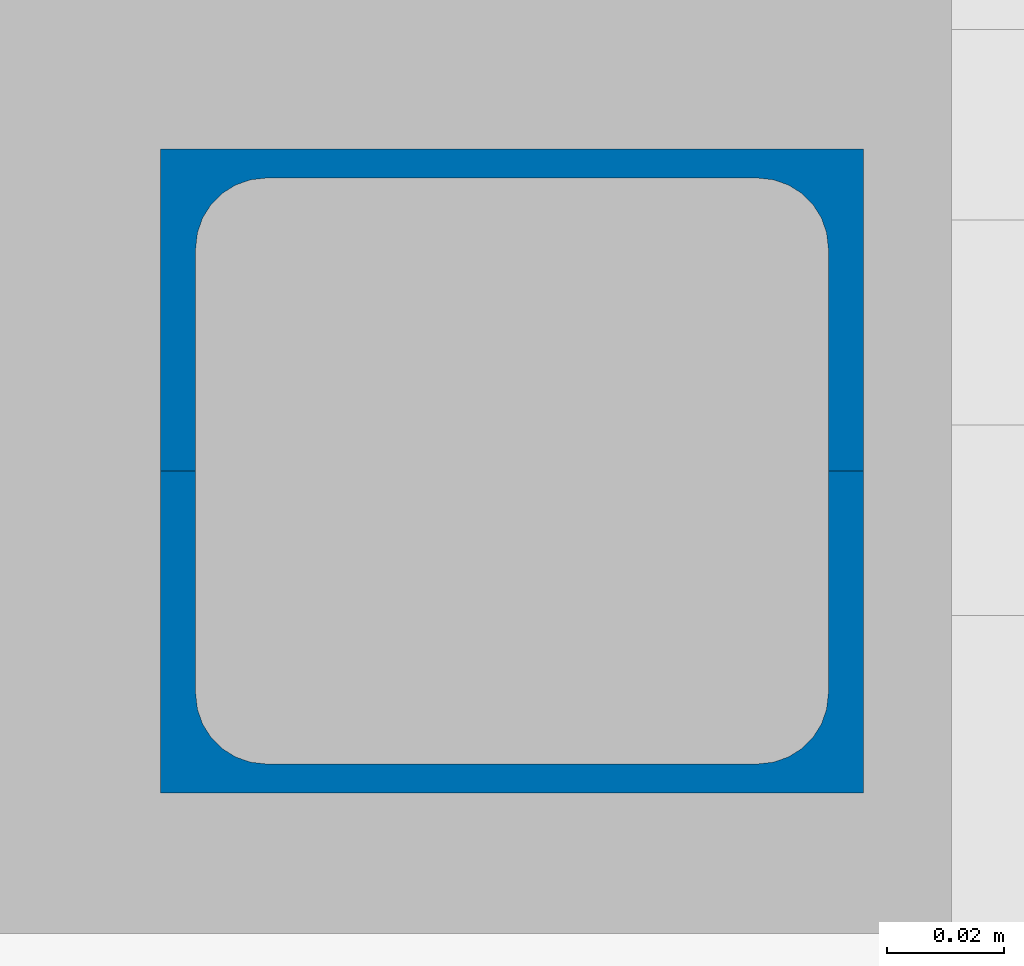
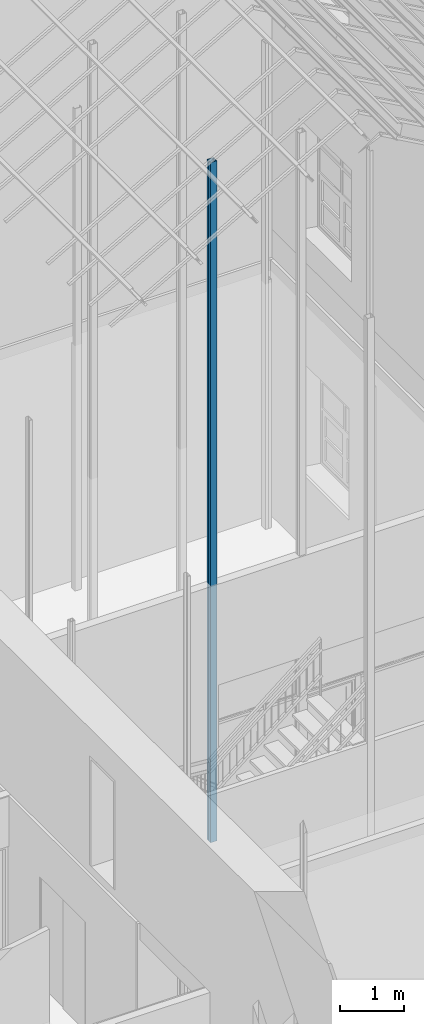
# One storey, part 4 of 75: 2 columns.
"""IFC2X3 building model written with IfcOpenShell, lengths in metres."""

from ifc_helpers import new_model, entity, si_unit, converted_unit, derived_unit, direction, frame, frame_2d, origin, place, context, subcontext, project, spatial, polyline, circle_curve, parameter, trimmed, segment, composite_curve, outline, extrude, source, transform, mapped, material, type_object, type_shapes, element, save


model = new_model("IFC2X3")

# Units and contexts
model_context = context("Model", 3, precision=1e-05, world=origin(), true_north=direction((6.12303176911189e-17, 1.0)))
body_context = subcontext(model_context, "Body", "Model", "MODEL_VIEW")
ifc_project = project(units=[si_unit("LENGTHUNIT", "METRE"), si_unit("AREAUNIT", "SQUARE_METRE"), si_unit("VOLUMEUNIT", "CUBIC_METRE"), converted_unit("PLANEANGLEUNIT", "DEGREE", entity("IfcRatioMeasure", 0.0174532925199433), si_unit("PLANEANGLEUNIT", "RADIAN"), dimensions=[0, 0, 0, 0, 0, 0, 0]), si_unit("MASSUNIT", "GRAM", prefix="KILO"), derived_unit("MASSDENSITYUNIT", [(si_unit("MASSUNIT", "GRAM", prefix="KILO"), 1), (si_unit("LENGTHUNIT", "METRE"), -3)]), derived_unit("MOMENTOFINERTIAUNIT", [(si_unit("LENGTHUNIT", "METRE"), 4)]), si_unit("TIMEUNIT", "SECOND"), si_unit("FREQUENCYUNIT", "HERTZ"), si_unit("THERMODYNAMICTEMPERATUREUNIT", "DEGREE_CELSIUS"), derived_unit("THERMALTRANSMITTANCEUNIT", [(si_unit("MASSUNIT", "GRAM", prefix="KILO"), 1), (si_unit("THERMODYNAMICTEMPERATUREUNIT", "KELVIN"), -1), (si_unit("TIMEUNIT", "SECOND"), -3)]), derived_unit("VOLUMETRICFLOWRATEUNIT", [(si_unit("LENGTHUNIT", "METRE"), 3), (si_unit("TIMEUNIT", "SECOND"), -1)]), si_unit("ELECTRICCURRENTUNIT", "AMPERE"), si_unit("ELECTRICVOLTAGEUNIT", "VOLT"), si_unit("POWERUNIT", "WATT"), si_unit("FORCEUNIT", "NEWTON", prefix="KILO"), si_unit("ILLUMINANCEUNIT", "LUX"), si_unit("LUMINOUSFLUXUNIT", "LUMEN"), si_unit("LUMINOUSINTENSITYUNIT", "CANDELA"), derived_unit("USERDEFINED", [(si_unit("MASSUNIT", "GRAM", prefix="KILO"), -1), (si_unit("LENGTHUNIT", "METRE"), -2), (si_unit("TIMEUNIT", "SECOND"), 3), (si_unit("LUMINOUSFLUXUNIT", "LUMEN"), 1)]), derived_unit("LINEARVELOCITYUNIT", [(si_unit("LENGTHUNIT", "METRE"), 1), (si_unit("TIMEUNIT", "SECOND"), -1)]), si_unit("PRESSUREUNIT", "PASCAL"), derived_unit("USERDEFINED", [(si_unit("LENGTHUNIT", "METRE"), -2), (si_unit("MASSUNIT", "GRAM", prefix="KILO"), 1), (si_unit("TIMEUNIT", "SECOND"), -2)]), derived_unit("LINEARFORCEUNIT", [(si_unit("MASSUNIT", "GRAM", prefix="KILO"), 1), (si_unit("LENGTHUNIT", "METRE"), 1), (si_unit("TIMEUNIT", "SECOND"), -2), (si_unit("LENGTHUNIT", "METRE"), -1)]), derived_unit("PLANARFORCEUNIT", [(si_unit("MASSUNIT", "GRAM", prefix="KILO"), 1), (si_unit("LENGTHUNIT", "METRE"), 1), (si_unit("TIMEUNIT", "SECOND"), -2), (si_unit("LENGTHUNIT", "METRE"), -2)])], contexts=[model_context])

# Site, building, storey
site_placement = place(None, origin())
site = spatial("IfcSite", under=ifc_project, at=site_placement, Name="Superficie", CompositionType="ELEMENT")
building_placement = place(site_placement, origin())
building = spatial("IfcBuilding", under=site, at=building_placement, Name="Telegestiones", CompositionType="ELEMENT")
storey_placement = place(building_placement, origin())
storey = spatial("IfcBuildingStorey", under=building, at=storey_placement, Name="Nivel 0_NPT", CompositionType="ELEMENT", Elevation=0.0)

# Columns
ifc_material = material(Name="Metal - Acero - 345 MPa")
column_type_1 = type_object("IfcColumnType", Name="UPE - Canales de ala paralela - Pilar:UPE 120", PredefinedType="COLUMN", material=ifc_material)
shared_shape_1 = source(origin(), body_context, "Body", "SweptSolid", [
    extrude(outline(composite_curve([segment(polyline([(-0.0599999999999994, -0.0264), (0.0600000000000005, -0.0264)]), True, "CONTINUOUS"), segment(polyline([(0.0600000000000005, -0.0264), (0.0600000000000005, 0.0286)]), True, "CONTINUOUS"), segment(polyline([(0.0600000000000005, 0.0286), (0.0539999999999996, 0.0286)]), True, "CONTINUOUS"), segment(polyline([(0.0539999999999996, 0.0286), (0.0539999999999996, -0.00939999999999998)]), True, "CONTINUOUS"), segment(trimmed(circle_curve(frame_2d((0.0419999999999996, -0.0094), x_axis=(1.0, 0.0)), 0.012), [parameter(270.0)], [parameter(0.0)], True, "PARAMETER"), False, "CONTINUOUS"), segment(polyline([(0.0419999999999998, -0.0214), (-0.0420000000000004, -0.0214)]), True, "CONTINUOUS"), segment(trimmed(circle_curve(frame_2d((-0.0420000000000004, -0.00940000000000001), x_axis=(0.0, -1.0)), 0.012), [parameter(270.0)], [parameter(0.0)], True, "PARAMETER"), False, "CONTINUOUS"), segment(polyline([(-0.0540000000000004, -0.0094), (-0.0540000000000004, 0.0286)]), True, "CONTINUOUS"), segment(polyline([(-0.0540000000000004, 0.0286), (-0.0599999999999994, 0.0286)]), True, "CONTINUOUS"), segment(polyline([(-0.0599999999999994, 0.0286), (-0.0599999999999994, -0.0264)]), True, "CONTINUOUS")], self_intersect=False)), frame((0.00660000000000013, 0.0, 0.0), z_axis=(0.0, 0.0, 1.0), x_axis=(0.0, -1.0, 0.0)), (0.0, 0.0, 1.0), 13.07),
])
type_shapes(column_type_1, [shared_shape_1])
column_1_placement = place(storey_placement, frame((9.65681262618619, 6.4698072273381, 0.0), z_axis=(0.0, 0.0, 1.0), x_axis=(0.0, -1.0, 0.0)))
element("IfcColumn", 1, at=column_1_placement, inside=storey, type_object=column_type_1, Name="UPE - Canales de ala paralela - Pilar:UPE 120", ObjectType="UPE - Canales de ala paralela - Pilar:UPE 120", context=body_context, shape_type="MappedRepresentation", body=[
    mapped(shared_shape_1, transform((0.0, 0.0, 0.0), scale=1.0)),
])
column_type_2 = type_object("IfcColumnType", Name="UPE - Canales de ala paralela - Pilar:UPE 120", PredefinedType="COLUMN", material=ifc_material)
shared_shape_2 = source(origin(), body_context, "Body", "SweptSolid", [
    extrude(outline(composite_curve([segment(polyline([(-0.0600000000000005, -0.0264), (0.0599999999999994, -0.0264)]), True, "CONTINUOUS"), segment(polyline([(0.0599999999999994, -0.0264), (0.0599999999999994, 0.0286)]), True, "CONTINUOUS"), segment(polyline([(0.0599999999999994, 0.0286), (0.0540000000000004, 0.0286)]), True, "CONTINUOUS"), segment(polyline([(0.0540000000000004, 0.0286), (0.0540000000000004, -0.00939999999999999)]), True, "CONTINUOUS"), segment(trimmed(circle_curve(frame_2d((0.0420000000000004, -0.00939999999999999), x_axis=(1.0, 0.0)), 0.012), [parameter(270.0)], [parameter(0.0)], True, "PARAMETER"), False, "CONTINUOUS"), segment(polyline([(0.0420000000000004, -0.0214), (-0.0419999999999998, -0.0214)]), True, "CONTINUOUS"), segment(trimmed(circle_curve(frame_2d((-0.0419999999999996, -0.00939999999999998), x_axis=(0.0, -1.0)), 0.012), [parameter(270.0)], [parameter(0.0)], True, "PARAMETER"), False, "CONTINUOUS"), segment(polyline([(-0.0539999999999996, -0.00939999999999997), (-0.0539999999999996, 0.0286)]), True, "CONTINUOUS"), segment(polyline([(-0.0539999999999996, 0.0286), (-0.0600000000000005, 0.0286)]), True, "CONTINUOUS"), segment(polyline([(-0.0600000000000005, 0.0286), (-0.0600000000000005, -0.0264)]), True, "CONTINUOUS")], self_intersect=False)), frame((0.00660000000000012, 0.0, 0.0), z_axis=(0.0, 0.0, 1.0), x_axis=(0.0, -1.0, 0.0)), (0.0, 0.0, 1.0), 13.07),
])
type_shapes(column_type_2, [shared_shape_2])
column_2_placement = place(storey_placement, frame((9.65681262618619, 6.3994072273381, 0.0), z_axis=(0.0, 0.0, 1.0), x_axis=(0.0, 1.0, 0.0)))
element("IfcColumn", 2, at=column_2_placement, inside=storey, type_object=column_type_2, Name="UPE - Canales de ala paralela - Pilar:UPE 120", ObjectType="UPE - Canales de ala paralela - Pilar:UPE 120", context=body_context, shape_type="MappedRepresentation", body=[
    mapped(shared_shape_2, transform((0.0, 0.0, 0.0), scale=1.0)),
])

save(model, "model.ifc")
